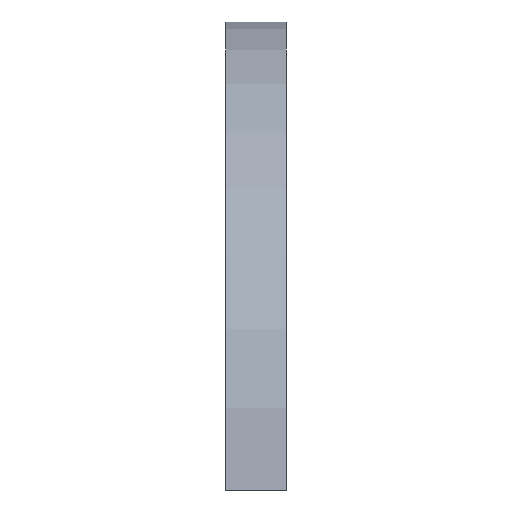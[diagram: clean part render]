
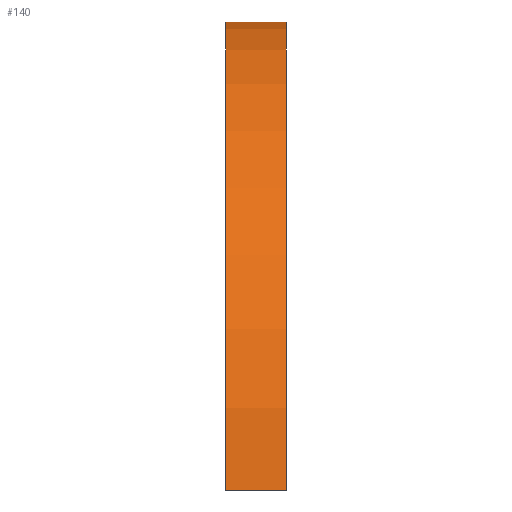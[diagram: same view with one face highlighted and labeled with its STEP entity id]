
A CAD part, left-side view. The second image highlights one B-rep face of the part: STEP entity #140.
In plain terms, the highlighted cylindrical face has radius 50.3 mm (diameter 100.6 mm), a partial arc.
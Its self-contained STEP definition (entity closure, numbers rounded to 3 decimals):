
#140=ADVANCED_FACE('',(#196),#168,.T.);
#168=CYLINDRICAL_SURFACE('',#741,50.3);
#196=FACE_OUTER_BOUND('',#224,.T.);
#224=EDGE_LOOP('',(#408,#409,#410,#411));
#267=LINE('',#1079,#299);
#270=LINE('',#1089,#302);
#299=VECTOR('',#884,1.);
#302=VECTOR('',#895,1.);
#408=ORIENTED_EDGE('',*,*,#608,.T.);
#409=ORIENTED_EDGE('',*,*,#591,.F.);
#410=ORIENTED_EDGE('',*,*,#609,.F.);
#411=ORIENTED_EDGE('',*,*,#596,.T.);
#520=VERTEX_POINT('',#1073);
#523=VERTEX_POINT('',#1078);
#526=VERTEX_POINT('',#1088);
#527=VERTEX_POINT('',#1090);
#591=EDGE_CURVE('',#523,#520,#267,.T.);
#596=EDGE_CURVE('',#527,#526,#270,.T.);
#608=EDGE_CURVE('',#526,#520,#660,.T.);
#609=EDGE_CURVE('',#527,#523,#661,.T.);
#660=CIRCLE('',#739,50.3);
#661=CIRCLE('',#740,50.3);
#739=AXIS2_PLACEMENT_3D('',#1108,#929,#930);
#740=AXIS2_PLACEMENT_3D('',#1109,#931,#932);
#741=AXIS2_PLACEMENT_3D('',#1110,#933,#934);
#884=DIRECTION('',(0.,-1.,0.));
#895=DIRECTION('',(0.,-1.,0.));
#929=DIRECTION('',(0.,1.,0.));
#930=DIRECTION('',(1.,0.,0.));
#931=DIRECTION('',(0.,1.,0.));
#932=DIRECTION('',(1.,0.,0.));
#933=DIRECTION('',(0.,-1.,0.));
#934=DIRECTION('',(0.,0.,-1.));
#1073=CARTESIAN_POINT('',(50.278,-130.5,1.5));
#1078=CARTESIAN_POINT('',(50.278,-124.15,1.5));
#1079=CARTESIAN_POINT('',(50.278,-124.15,1.5));
#1088=CARTESIAN_POINT('',(-50.278,-130.5,1.5));
#1089=CARTESIAN_POINT('',(-50.278,-124.15,1.5));
#1090=CARTESIAN_POINT('',(-50.278,-124.15,1.5));
#1108=CARTESIAN_POINT('',(0.,-130.5,0.));
#1109=CARTESIAN_POINT('',(0.,-124.15,0.));
#1110=CARTESIAN_POINT('',(0.,-124.15,0.));
